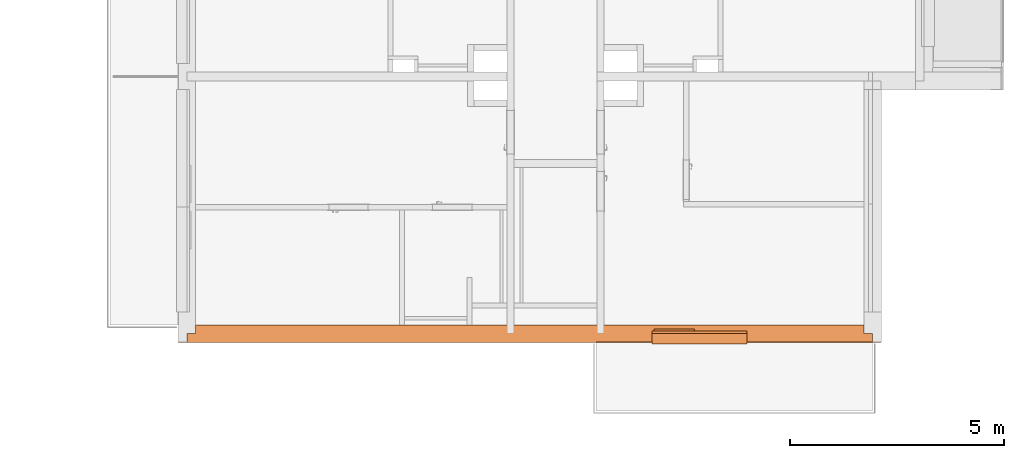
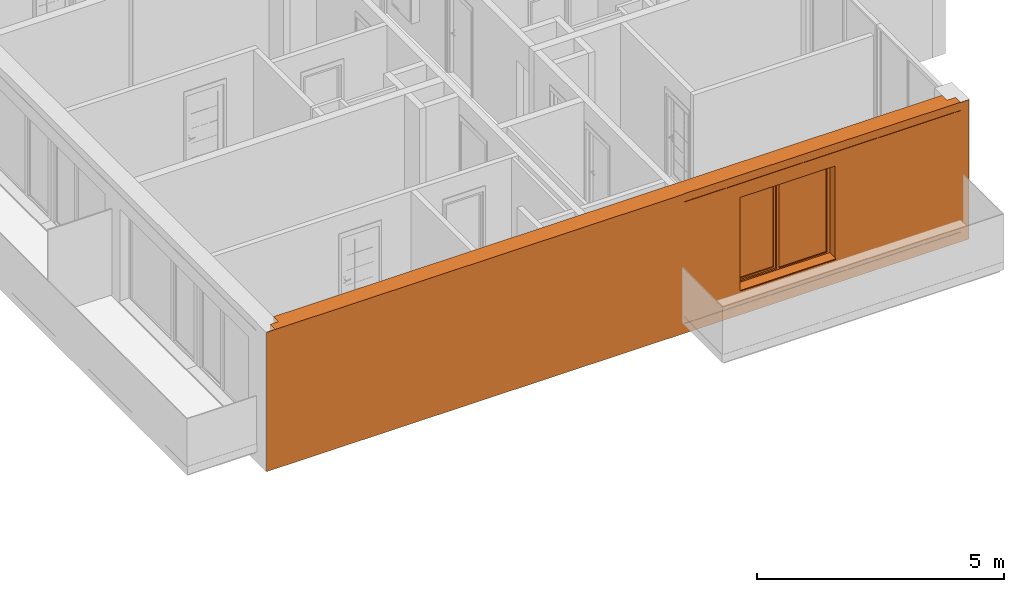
# One storey, part 50 of 67: 2 proxies, 1 opening.
"""IFC2X3 building model written with IfcOpenShell, lengths in millimetres."""

from ifc_helpers import new_model, entity, si_unit, converted_unit, derived_unit, money_unit, direction, frame, origin_with_axes, origin_2d_with_axis, place, context, subcontext, project, spatial, rectangle, extrude, open_shell, faceted_brep, surface_model, source, transform, mapped, material, material_list, type_object, element, fill, save


model = new_model("IFC2X3")

# Units and contexts
model_context = context("Model", 3, precision=0.01, world=origin_with_axes(), true_north=direction((0.34421633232, 0.938890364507)))
body_context = subcontext(model_context, "Body", "Model", "MODEL_VIEW")
ifc_project = project(units=[si_unit("LENGTHUNIT", "METRE", prefix="MILLI"), si_unit("AREAUNIT", "SQUARE_METRE"), si_unit("VOLUMEUNIT", "CUBIC_METRE"), converted_unit("PLANEANGLEUNIT", "DEGREE", entity("IfcPlaneAngleMeasure", 0.0174532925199), si_unit("PLANEANGLEUNIT", "RADIAN"), dimensions=[0, 0, 0, 0, 0, 0, 0]), si_unit("SOLIDANGLEUNIT", "STERADIAN"), money_unit("USD"), converted_unit("TIMEUNIT", "Year", entity("IfcTimeMeasure", 31556926.0), si_unit("TIMEUNIT", "SECOND"), dimensions=[0, 0, 1, 0, 0, 0, 0]), si_unit("MASSUNIT", "GRAM", prefix="KILO"), si_unit("THERMODYNAMICTEMPERATUREUNIT", "DEGREE_CELSIUS"), si_unit("LUMINOUSINTENSITYUNIT", "LUMEN"), si_unit("ENERGYUNIT", "JOULE", prefix="MEGA"), derived_unit("THERMALCONDUCTANCEUNIT", [(si_unit("POWERUNIT", "WATT"), 1), (si_unit("LENGTHUNIT", "METRE"), -1), (si_unit("THERMODYNAMICTEMPERATUREUNIT", "KELVIN"), -1)]), derived_unit("SPECIFICHEATCAPACITYUNIT", [(si_unit("ENERGYUNIT", "JOULE"), 1), (si_unit("MASSUNIT", "GRAM", prefix="KILO"), -1), (si_unit("THERMODYNAMICTEMPERATUREUNIT", "KELVIN"), -1)]), derived_unit("MASSDENSITYUNIT", [(si_unit("MASSUNIT", "GRAM", prefix="KILO"), 1), (si_unit("VOLUMEUNIT", "CUBIC_METRE"), -1)])], contexts=[model_context])

# Site, building, storey
site_placement = place(None, origin_with_axes())
site = spatial("IfcSite", under=ifc_project, at=site_placement, Name="USTRONIE MORSKIE", CompositionType="ELEMENT")
building_placement = place(site_placement, origin_with_axes())
building = spatial("IfcBuilding", under=site, at=building_placement, Name="Budynek", CompositionType="ELEMENT")
storey_placement = place(building_placement, frame((0.0, 0.0, 4000.0), z_axis=(0.0, 0.0, 1.0), x_axis=(1.0, 0.0, 0.0)))
storey = spatial("IfcBuildingStorey", under=building, at=storey_placement, Name="PIĘTRO 1", CompositionType="ELEMENT", Elevation=4000.0)

# Proxies, opening
ifc_material_1 = material(Name="Beton konstrukcyjny B25")
ifc_material_2 = material(Name="Wełna ELEW")
ifc_material_3 = material(Name="Tynk zewnętrzny")
ifc_material_list = material_list([ifc_material_1, ifc_material_2, ifc_material_3])
building_element_proxy_type_1 = type_object("IfcBuildingElementProxyType", Name="20+20 410", PredefinedType="NOTDEFINED")
proxy_1_placement = place(storey_placement, frame((408567.884527, 709201.199036, -600.0), z_axis=(0.0, 0.0, 1.0), x_axis=(1.0, 0.0, 0.0)))
proxy_1 = element("IfcBuildingElementProxy", 1, at=proxy_1_placement, inside=storey, type_object=building_element_proxy_type_1, material=ifc_material_list, Name="SZ-01", context=body_context, shape_type="Brep", body=[
    faceted_brep([(15700.0363918, -100.0, 240.0), (15700.0363918, 100.0, 240.0), (15700.0363918, 100.0, 3440.0), (15700.0363918, -100.0, 3440.0), (5800.03639181, 100.0, 240.0), (5800.03639181, -100.0, 240.0), (5800.03639181, 100.0, 0.0), (99.9999942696, 100.0, 0.0), (99.9999942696, 100.0, 3440.0), (7370.03639181, 100.0, 3240.0), (7370.03639181, 100.0, 440.0), (7530.03639181, 100.0, 440.0), (7530.03639181, 100.0, 3240.0), (9470.01139181, 100.0, 3240.0), (9470.01139181, 100.0, 440.0), (9630.06139181, 100.0, 440.0), (9630.06139181, 100.0, 3240.0), (100.00000573, -100.0, 3440.0), (100.00000573, -100.0, 0.0), (5800.03639181, -100.0, 0.0), (7530.03639181, -100.0, 440.0), (7370.03639181, -100.0, 440.0), (7370.03639181, -100.0, 3240.0), (7530.03639181, -100.0, 3240.0), (9630.06139181, -100.0, 440.0), (9470.01139181, -100.0, 440.0), (9470.01139181, -100.0, 3240.0), (9630.06139181, -100.0, 3240.0)], [[[0, 1, 2, 3]], [[4, 1, 0, 5]], [[4, 6, 7, 8, 2, 1], [9, 10, 11, 12], [13, 14, 15, 16]], [[17, 3, 2, 8]], [[5, 0, 3, 17, 18, 19], [20, 21, 22, 23], [24, 25, 26, 27]], [[6, 4, 5, 19]], [[6, 19, 18, 7]], [[17, 8, 7, 18]], [[21, 10, 9, 22]], [[20, 11, 10, 21]], [[23, 12, 11, 20]], [[22, 9, 12, 23]], [[25, 14, 13, 26]], [[24, 15, 14, 25]], [[27, 16, 15, 24]], [[26, 13, 16, 27]]]),
    faceted_brep([(15900.0363918, -100.0, 0.0), (15900.0363918, -300.0, 0.0), (-99.9999828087, -300.0, 0.0), (-99.9999942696, -100.0, 0.0), (15900.0363918, -100.0, 3440.0), (15900.0363918, -300.0, 3440.0), (-99.9999828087, -300.0, 3440.0), (-99.9999942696, -100.0, 3440.0)], [[[0, 1, 2, 3]], [[1, 0, 4, 5]], [[1, 5, 6, 2]], [[7, 3, 2, 6]], [[4, 0, 3, 7]], [[5, 4, 7, 6]]]),
    faceted_brep([(9450.03639181, -300.0, 3240.0), (15900.0363918, -300.0, 3240.0), (15900.0363918, -300.0, 3440.0), (16100.0363918, -300.0, 3440.0), (16100.0363918, -300.0, 0.0), (-299.999982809, -300.0, 0.0), (-299.999982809, -300.0, 3440.0), (9450.03639181, -300.0, 3440.0), (9450.03639181, -300.0, 550.0), (9450.03639181, -300.0, 240.0), (15900.0363918, -300.0, 240.0), (15900.0363918, -300.0, 550.0), (9450.03639181, -310.0, 3240.0), (15900.0363918, -310.0, 3240.0), (15900.0363918, -310.0, 3440.0), (16100.0363918, -310.0, 3440.0), (16100.0363918, -310.0, 0.0), (-299.999982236, -310.0, 0.0), (-299.999982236, -310.0, 3440.0), (9450.03639181, -310.0, 3440.0), (9450.03639181, -310.0, 550.0), (9450.03639181, -310.0, 240.0), (15900.0363918, -310.0, 240.0), (15900.0363918, -310.0, 550.0)], [[[0, 1, 2, 3, 4, 5, 6, 7], [8, 9, 10, 11]], [[1, 0, 12, 13]], [[14, 2, 1, 13]], [[2, 14, 15, 3]], [[16, 4, 3, 15]], [[4, 16, 17, 5]], [[6, 5, 17, 18]], [[19, 7, 6, 18]], [[0, 7, 19, 12]], [[8, 20, 21, 9]], [[10, 9, 21, 22]], [[23, 11, 10, 22]], [[8, 11, 23, 20]], [[12, 19, 18, 17, 16, 15, 14, 13], [23, 22, 21, 20]]]),
])
opening_placement = place(proxy_1_placement, frame((11860.0397091, 0.0, 600.0), z_axis=(0.0, 0.0, 1.0), x_axis=(1.0, 0.0, 0.0)))
opening = element("IfcOpeningElement", 2, at=opening_placement, cuts=proxy_1, Name="Wz.01", context=body_context, shape_type="SweptSolid", body=[
    extrude(rectangle(XDim=2220.00663467, YDim=2300.0, at=origin_2d_with_axis()), frame((0.0, -99.9999999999, 1150.0), z_axis=(0.0, -1.0, 0.0), x_axis=(-1.0, 0.0, 0.0)), (0.0, 0.0, 1.0), 620.0),
    extrude(rectangle(XDim=2220.00663467, YDim=2300.0, at=origin_2d_with_axis()), frame((0.0, -100.0, 1150.0), z_axis=(0.0, 1.0, 0.0), x_axis=(-1.0, 0.0, 0.0)), (0.0, 0.0, 1.0), 610.0),
])
building_element_proxy_type_2 = type_object("IfcBuildingElementProxyType", Name="Okno podwójne 23", PredefinedType="NOTDEFINED")
shared_shape = source(origin_with_axes(), body_context, "Body", "SurfaceModel", [
    surface_model("IfcShellBasedSurfaceModel", [(1110.00331734, -66.0, 50.0), (-1110.00331734, -66.0, 50.0), (-1110.00331734, -66.0, 40.0), (1110.00331734, -66.0, 40.0), (-1110.00331734, -305.0, 28.5714285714), (1110.00331734, -305.0, 28.5714285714), (-1110.00331734, -305.0, 8.57142857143), (1110.00331734, -305.0, 8.57142857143), (-1110.00331734, -295.0, 18.5714285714), (1110.00331734, -295.0, 18.5714285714)], [open_shell([[[0, 1, 2, 3]], [[3, 2, 4, 5]], [[5, 4, 6, 7]], [[7, 6, 8, 9]]])]),
    faceted_brep([(-1040.00331734, -25.0, 2230.0), (-1065.00331734, -25.0, 2230.0), (-1065.00331734, 0.0, 2230.0), (-1110.00331734, 0.0, 2230.0), (-1110.00331734, -65.0, 2230.0), (-1040.00331734, -65.0, 2230.0), (-1040.00331734, -25.0, 70.0), (-1065.00331734, -25.0, 70.0), (-1065.00331734, 0.0, 70.0), (-1110.00331734, 0.0, 70.0), (-1110.00331734, -65.0, 70.0), (-1040.00331734, -65.0, 70.0)], [[[0, 1, 2, 3, 4, 5]], [[1, 0, 6, 7]], [[8, 2, 1, 7]], [[2, 8, 9, 3]], [[9, 10, 4, 3]], [[10, 11, 5, 4]], [[6, 0, 5, 11]], [[7, 6, 11, 10, 9, 8]]]),
    faceted_brep([(-112.503317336, 0.0, 2230.0), (-112.503317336, -25.0, 2230.0), (-137.503317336, -25.0, 2230.0), (-137.503317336, -65.0, 2230.0), (-72.5033173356, -65.0, 2230.0), (-72.5033173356, 0.0, 2230.0), (-112.503317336, 0.0, 70.0), (-112.503317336, -25.0, 70.0), (-137.503317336, -25.0, 70.0), (-137.503317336, -65.0, 70.0), (-72.5033173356, -65.0, 70.0), (-72.5033173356, 0.0, 70.0)], [[[0, 1, 2, 3, 4, 5]], [[1, 0, 6, 7]], [[8, 2, 1, 7]], [[2, 8, 9, 3]], [[9, 10, 4, 3]], [[5, 4, 10, 11]], [[6, 0, 5, 11]], [[7, 6, 11, 10, 9, 8]]]),
    faceted_brep([(-1040.00331734, -25.0, 70.0), (-1065.00331734, -25.0, 70.0), (-1065.00331734, 0.0, 70.0), (-1110.00331734, 0.0, 70.0), (-1110.00331734, -65.0, 70.0), (-1040.00331734, -65.0, 70.0), (-137.503317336, -25.0, 70.0), (-112.503317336, -25.0, 70.0), (-112.503317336, -25.0, 45.0), (-1065.00331734, -25.0, 45.0), (-1065.00331734, 0.0, 45.0), (-112.503317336, 0.0, 45.0), (-112.503317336, 0.0, 70.0), (-72.5033173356, 0.0, 70.0), (1040.00331734, 0.0, 70.0), (1110.00331734, 0.0, 70.0), (1110.00331734, 0.0, 0.0), (-1110.00331734, 0.0, 0.0), (-1110.00331734, -65.0, 0.0), (1110.00331734, -65.0, 70.0), (1040.00331734, -65.0, 70.0), (-72.5033173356, -65.0, 70.0), (-137.503317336, -65.0, 70.0), (1110.00331734, -65.0, 0.0)], [[[0, 1, 2, 3, 4, 5]], [[1, 0, 6, 7, 8, 9]], [[10, 2, 1, 9]], [[11, 12, 13, 14, 15, 16, 17, 3, 2, 10]], [[17, 18, 4, 3]], [[19, 20, 21, 22, 5, 4, 18, 23]], [[6, 0, 5, 22]], [[7, 6, 22, 21, 13, 12]], [[7, 12, 11, 8]], [[11, 10, 9, 8]], [[13, 21, 20, 14]], [[14, 20, 19, 15]], [[15, 19, 23, 16]], [[16, 23, 18, 17]]]),
    faceted_brep([(-112.503317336, 0.0, 2230.0), (-112.503317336, 0.0, 2255.0), (-1065.00331734, 0.0, 2255.0), (-1065.00331734, 0.0, 2230.0), (-1110.00331734, 0.0, 2230.0), (-1110.00331734, 0.0, 2300.0), (1110.00331734, 0.0, 2300.0), (1110.00331734, 0.0, 2230.0), (1040.00331734, 0.0, 2230.0), (-72.5033173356, 0.0, 2230.0), (-112.503317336, -25.0, 2230.0), (-112.503317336, -25.0, 2255.0), (-1065.00331734, -25.0, 2255.0), (-1065.00331734, -25.0, 2230.0), (-1040.00331734, -25.0, 2230.0), (-1040.00331734, -65.0, 2230.0), (-1110.00331734, -65.0, 2230.0), (-1110.00331734, -65.0, 2300.0), (1110.00331734, -65.0, 2300.0), (1110.00331734, -65.0, 2230.0), (1040.00331734, -65.0, 2230.0), (-72.5033173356, -65.0, 2230.0), (-137.503317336, -65.0, 2230.0), (-137.503317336, -25.0, 2230.0)], [[[0, 1, 2, 3, 4, 5, 6, 7, 8, 9]], [[1, 0, 10, 11]], [[2, 1, 11, 12]], [[3, 2, 12, 13]], [[13, 14, 15, 16, 4, 3]], [[4, 16, 17, 5]], [[5, 17, 18, 6]], [[6, 18, 19, 7]], [[7, 19, 20, 8]], [[8, 20, 21, 9]], [[10, 0, 9, 21, 22, 23]], [[14, 13, 12, 11, 10, 23]], [[14, 23, 22, 15]], [[22, 21, 20, 19, 18, 17, 16, 15]]]),
    faceted_brep([(1040.00331734, -65.0, 2230.0), (1110.00331734, -65.0, 2230.0), (1110.00331734, 0.0, 2230.0), (1040.00331734, 0.0, 2230.0), (1040.00331734, -65.0, 70.0), (1110.00331734, -65.0, 70.0), (1110.00331734, 0.0, 70.0), (1040.00331734, 0.0, 70.0)], [[[0, 1, 2, 3]], [[0, 4, 5, 1]], [[1, 5, 6, 2]], [[3, 2, 6, 7]], [[4, 0, 3, 7]], [[5, 4, 7, 6]]]),
    surface_model("IfcShellBasedSurfaceModel", [(1040.00331734, -35.0, 70.0), (1040.00331734, -35.0, 2230.0), (-72.5033173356, -35.0, 2230.0), (-72.5033173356, -35.0, 70.0)], [open_shell([[[0, 1, 2, 3]]])]),
    surface_model("IfcShellBasedSurfaceModel", [(1040.00331734, -15.0, 70.0), (-72.5033173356, -15.0, 70.0), (-72.5033173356, -15.0, 2230.0), (1040.00331734, -15.0, 2230.0)], [open_shell([[[0, 1, 2, 3]]])]),
    faceted_brep([(-177.503317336, -25.0, 2190.0), (-112.503317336, -25.0, 2190.0), (-112.503317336, 40.0, 2190.0), (-177.503317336, 40.0, 2190.0), (-177.503317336, -25.0, 110.0), (-112.503317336, -25.0, 110.0), (-112.503317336, 40.0, 110.0), (-177.503317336, 40.0, 110.0)], [[[0, 1, 2, 3]], [[0, 4, 5, 1]], [[1, 5, 6, 2]], [[3, 2, 6, 7]], [[4, 0, 3, 7]], [[5, 4, 7, 6]]]),
    faceted_brep([(-1000.00331734, -25.0, 110.0), (-1065.00331734, -25.0, 110.0), (-1065.00331734, 40.0, 110.0), (-1000.00331734, 40.0, 110.0), (-1000.00331734, -25.0, 2190.0), (-1065.00331734, -25.0, 2190.0), (-1065.00331734, 40.0, 2190.0), (-1000.00331734, 40.0, 2190.0)], [[[0, 1, 2, 3]], [[0, 4, 5, 1]], [[1, 5, 6, 2]], [[3, 2, 6, 7]], [[4, 0, 3, 7]], [[5, 4, 7, 6]]]),
    faceted_brep([(-1065.00331734, -25.0, 45.0), (-1065.00331734, -25.0, 110.0), (-1065.00331734, 40.0, 110.0), (-1065.00331734, 40.0, 45.0), (-112.503317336, -25.0, 45.0), (-112.503317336, -25.0, 110.0), (-177.503317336, -25.0, 110.0), (-1000.00331734, -25.0, 110.0), (-1000.00331734, 40.0, 110.0), (-177.503317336, 40.0, 110.0), (-112.503317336, 40.0, 110.0), (-112.503317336, 40.0, 45.0)], [[[0, 1, 2, 3]], [[0, 4, 5, 6, 7, 1]], [[1, 7, 8, 2]], [[3, 2, 8, 9, 10, 11]], [[4, 0, 3, 11]], [[5, 4, 11, 10]], [[6, 5, 10, 9]], [[7, 6, 9, 8]]]),
    faceted_brep([(-112.503317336, -25.0, 2255.0), (-112.503317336, -25.0, 2190.0), (-112.503317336, 40.0, 2190.0), (-112.503317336, 40.0, 2255.0), (-1065.00331734, -25.0, 2255.0), (-1065.00331734, -25.0, 2190.0), (-1000.00331734, -25.0, 2190.0), (-177.503317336, -25.0, 2190.0), (-177.503317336, 40.0, 2190.0), (-1000.00331734, 40.0, 2190.0), (-1065.00331734, 40.0, 2190.0), (-1065.00331734, 40.0, 2255.0)], [[[0, 1, 2, 3]], [[0, 4, 5, 6, 7, 1]], [[1, 7, 8, 2]], [[3, 2, 8, 9, 10, 11]], [[4, 0, 3, 11]], [[5, 4, 11, 10]], [[6, 5, 10, 9]], [[7, 6, 9, 8]]]),
    surface_model("IfcShellBasedSurfaceModel", [(-177.503317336, -2.5, 110.0), (-177.503317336, -2.5, 2190.0), (-1000.00331734, -2.5, 2190.0), (-1000.00331734, -2.5, 110.0)], [open_shell([[[0, 1, 2, 3]]])]),
    surface_model("IfcShellBasedSurfaceModel", [(-177.503317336, 17.5, 110.0), (-1000.00331734, 17.5, 110.0), (-1000.00331734, 17.5, 2190.0), (-177.503317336, 17.5, 2190.0)], [open_shell([[[0, 1, 2, 3]]])]),
])
proxy_2_placement = place(opening_placement, frame((-1110.00331734, 0.0, 0.0), z_axis=(0.0, 0.0, 1.0), x_axis=(1.0, 0.0, 0.0)))
proxy_2 = element("IfcBuildingElementProxy", 3, at=proxy_2_placement, inside=storey, type_object=building_element_proxy_type_2, Name="Wz.01", context=body_context, shape_type="MappedRepresentation", body=[
    mapped(shared_shape, transform((1110.00331734, -35.0, 0.0))),
])
fill(opening, proxy_2)

save(model, "model.ifc")
